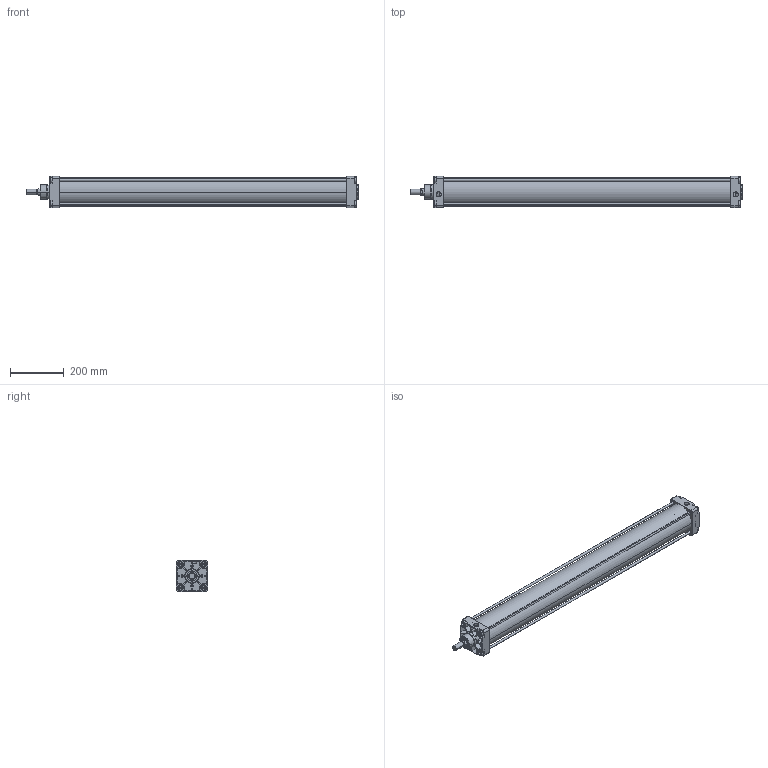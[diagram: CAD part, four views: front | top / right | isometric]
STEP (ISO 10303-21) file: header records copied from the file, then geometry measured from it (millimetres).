
FILE_DESCRIPTION(('CATIA V5 STEP Exchange','CAx-IF Rec.Pracs.--- Model Styling and Organization---1.4--- 2014-01-23','CAx-IF Rec.Pracs.---3D Tessellated Data Validation Properties---0.5---2014-09-14'),'2;1');
FILE_NAME('C:\Users\Ghadiri\Desktop\PNC 100-25-1000.stp','2021-05-03T04:22:34+00:00',('none'),('none'),'CATIA Version 5-6 Release 2018 SP6','CATIA V5 STEP AP242','none');
FILE_SCHEMA(('AP242_MANAGED_MODEL_BASED_3D_ENGINEERING_MIM_LF {1 0 10303 442 1 1 4}'));
Length unit declared in the file: millimetre
Products named in the file (3): PNC 100-25-1000-00; PNC 100-25-1000-01; PNC 100-25-1000-02
Assembly tree (2 placements, depth 2):
  PNC 100-25-1000-00
    PNC 100-25-1000-01
    PNC 100-25-1000-02
Bounding box: 1230.5 x 115 x 115 mm (x, y, z)
Volume: 3223212.1 mm3; surface area: 1080247.8 mm2
Topology: 6 solids, 6 shells, 534 faces, 1388 edges, 914 vertices
Faces by surface type: plane 336, cylinder 166, torus 26, cone 6
Entity records: 14689 total; most frequent: ORIENTED_EDGE 2776, CARTESIAN_POINT 2597, DIRECTION 1906, EDGE_CURVE 1388, VECTOR 922, LINE 922, VERTEX_POINT 914, AXIS2_PLACEMENT_3D 721
